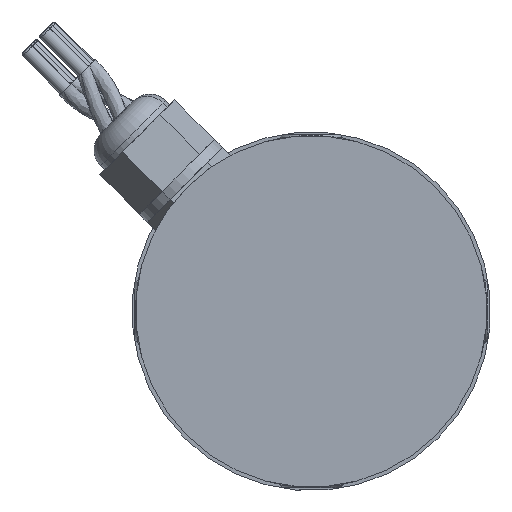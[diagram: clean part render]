
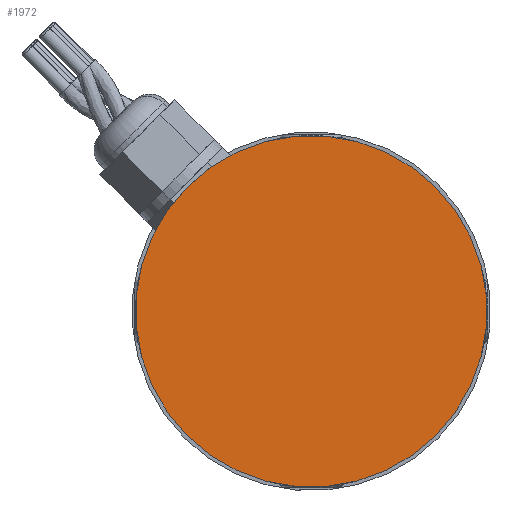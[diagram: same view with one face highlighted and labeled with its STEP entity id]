
A CAD part, left-side view. The second image highlights one B-rep face of the part: STEP entity #1972.
In plain terms, the highlighted planar face has unit normal (-1, 0, 0).
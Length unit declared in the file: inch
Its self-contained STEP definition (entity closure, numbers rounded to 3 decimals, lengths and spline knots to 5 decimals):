
#325 = EDGE_CURVE ( 'NONE', #740, #11177, #9989, .T. ) ;
#471 = PLANE ( 'NONE',  #3948 ) ;
#740 = VERTEX_POINT ( 'NONE', #2740 ) ;
#803 = DIRECTION ( 'NONE',  ( 1., 0., 0. ) ) ;
#880 = ORIENTED_EDGE ( 'NONE', *, *, #13600, .F. ) ;
#1447 = AXIS2_PLACEMENT_3D ( 'NONE', #2872, #9549, #10722 ) ;
#1972 = ADVANCED_FACE ( 'NONE', ( #4783 ), #471, .F. ) ;
#2740 = CARTESIAN_POINT ( 'NONE',  ( -0.32797, 2.40744, 5.7787 ) ) ;
#2872 = CARTESIAN_POINT ( 'NONE',  ( -0.32797, 3.51222, 4.67391 ) ) ;
#3716 = EDGE_LOOP ( 'NONE', ( #880, #8203 ) ) ;
#3892 = CIRCLE ( 'NONE', #11471, 1.5624 ) ;
#3948 = AXIS2_PLACEMENT_3D ( 'NONE', #9564, #803, #5076 ) ;
#4783 = FACE_OUTER_BOUND ( 'NONE', #3716, .T. ) ;
#5076 = DIRECTION ( 'NONE',  ( 0., -0.707, 0.707 ) ) ;
#5841 = DIRECTION ( 'NONE',  ( 0., -0.707, 0.707 ) ) ;
#8203 = ORIENTED_EDGE ( 'NONE', *, *, #325, .F. ) ;
#9549 = DIRECTION ( 'NONE',  ( 1., 0., 0. ) ) ;
#9564 = CARTESIAN_POINT ( 'NONE',  ( -0.32797, 3.51222, 4.67391 ) ) ;
#9989 = CIRCLE ( 'NONE', #1447, 1.5624 ) ;
#10477 = CARTESIAN_POINT ( 'NONE',  ( -0.32797, 4.61701, 3.56913 ) ) ;
#10722 = DIRECTION ( 'NONE',  ( 0., -0.707, 0.707 ) ) ;
#11177 = VERTEX_POINT ( 'NONE', #10477 ) ;
#11387 = CARTESIAN_POINT ( 'NONE',  ( -0.32797, 3.51222, 4.67391 ) ) ;
#11437 = DIRECTION ( 'NONE',  ( 1., 0., 0. ) ) ;
#11471 = AXIS2_PLACEMENT_3D ( 'NONE', #11387, #11437, #5841 ) ;
#13600 = EDGE_CURVE ( 'NONE', #11177, #740, #3892, .T. ) ;
